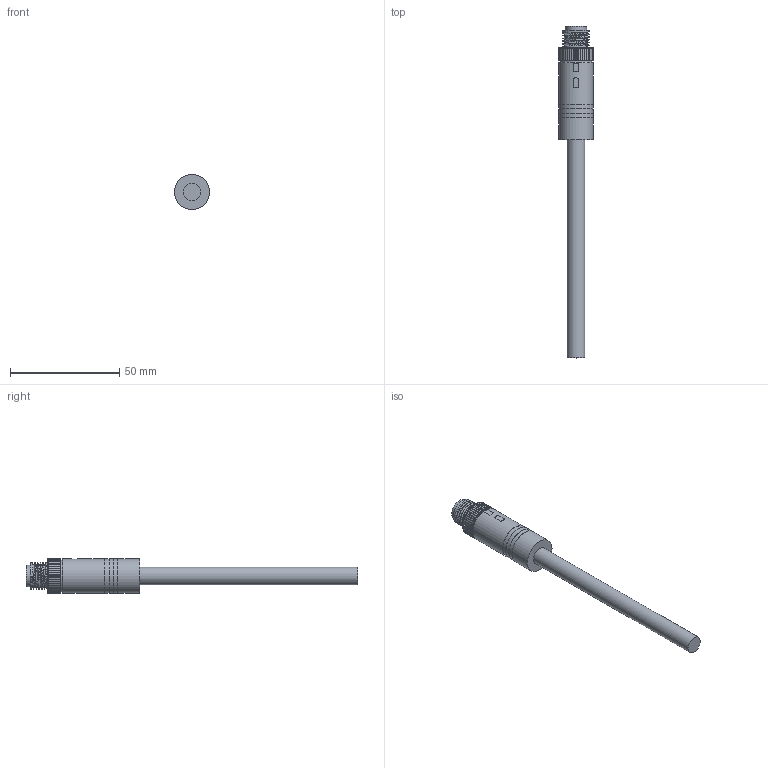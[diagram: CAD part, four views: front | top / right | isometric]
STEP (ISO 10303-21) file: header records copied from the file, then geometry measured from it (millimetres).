
FILE_DESCRIPTION (( 'STEP AP214' ), '1' );
FILE_NAME ('FICHE M12P MALE.STEP', '2021-09-24T09:53:27', ( '' ), ( '' ), 'SwSTEP 2.0', 'SolidWorks 2021', '' );
FILE_SCHEMA (( 'AUTOMOTIVE_DESIGN' ));
Length unit declared in the file: millimetre
Products named in the file (1): FICHE M12P MALE
Bounding box: 16 x 152 x 16 mm (x, y, z)
Volume: 13929.2 mm3; surface area: 6143 mm2
Topology: 1 solids, 1 shells, 301 faces, 846 edges, 564 vertices
Faces by surface type: plane 130, torus 101, cylinder 66, bspline 4
Full cylindrical faces by diameter (mm): 0.8 x4, 8 x2, 10 x1, 15 x1, 15.8 x2, 16 x3
Entity records: 13138 total; most frequent: CARTESIAN_POINT 5244, ORIENTED_EDGE 1654, DIRECTION 1441, EDGE_CURVE 827, VERTEX_POINT 559, AXIS2_PLACEMENT_3D 532, VECTOR 377, LINE 377
